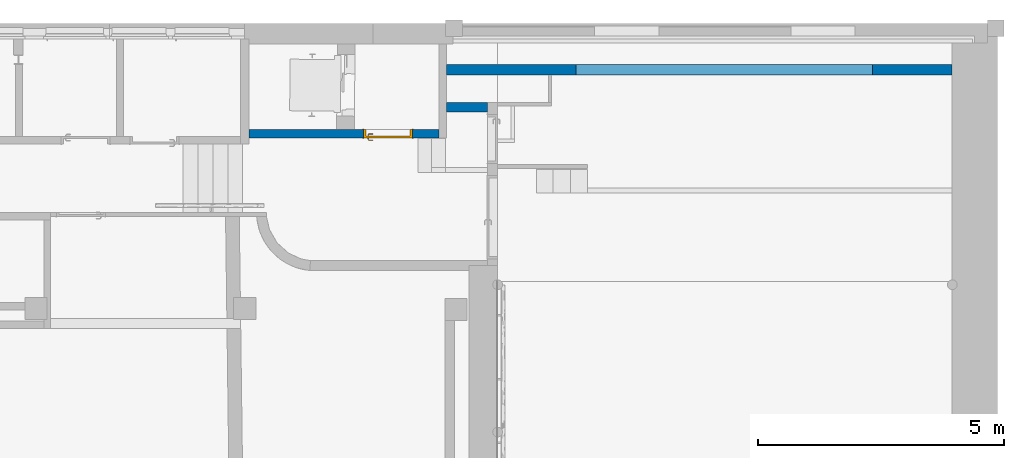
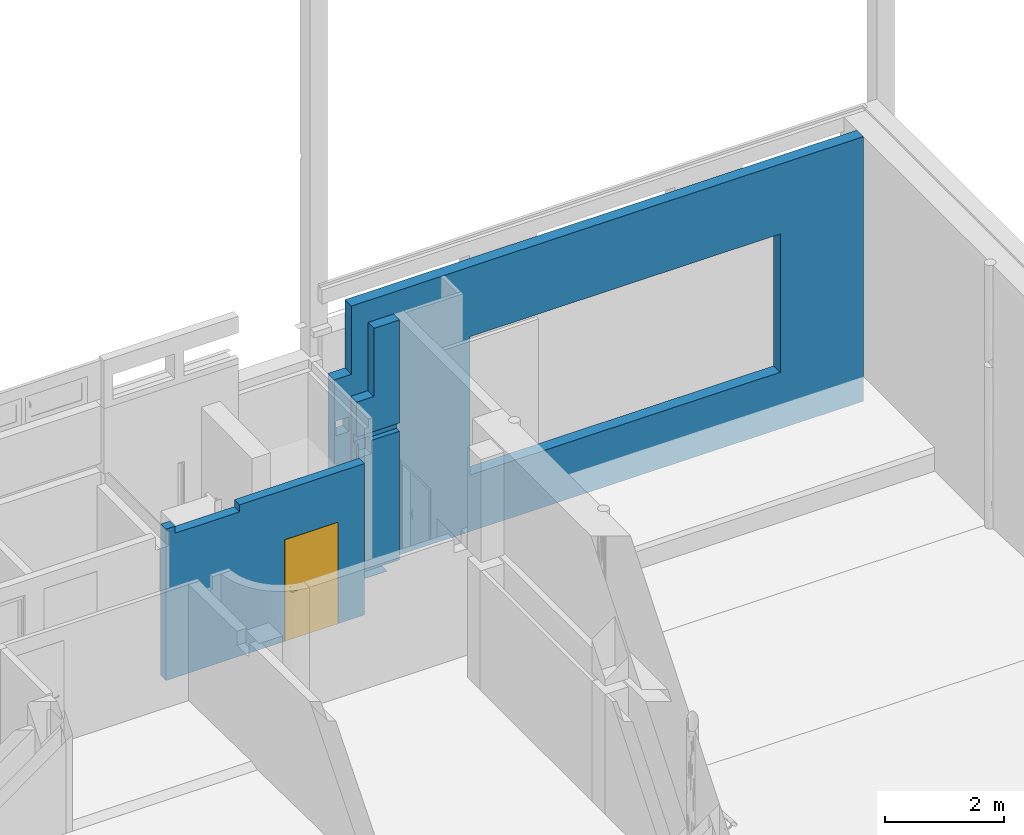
# One storey, part 30 of 39: 3 walls, 1 door, 2 openings.
"""IFC4 building model written with IfcOpenShell, lengths in metres."""

from ifc_helpers import new_model, entity, si_unit, converted_unit, derived_unit, direction, frame, origin, place, context, subcontext, project, spatial, indexed_curve, outline, extrude, polygons, source, transform, mapped, material, material_list, layer, layer_set, constituent, constituent_set, type_object, type_shapes, element, fill, save


model = new_model("IFC4")

# Units and contexts
model_context = context("Model", 3, precision=1e-05, world=origin(), true_north=direction((6.12303176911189e-17, 1.0)))
body_context = subcontext(model_context, "Body", "Model", "MODEL_VIEW")
ifc_project = project(units=[si_unit("LENGTHUNIT", "METRE"), si_unit("AREAUNIT", "SQUARE_METRE"), si_unit("VOLUMEUNIT", "CUBIC_METRE"), converted_unit("PLANEANGLEUNIT", "DEGREE", entity("IfcRatioMeasure", 0.0174532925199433), si_unit("PLANEANGLEUNIT", "RADIAN"), dimensions=[0, 0, 0, 0, 0, 0, 0]), si_unit("MASSUNIT", "GRAM", prefix="KILO"), derived_unit("MASSDENSITYUNIT", [(si_unit("MASSUNIT", "GRAM", prefix="KILO"), 1), (si_unit("LENGTHUNIT", "METRE"), -3)]), derived_unit("MOMENTOFINERTIAUNIT", [(si_unit("LENGTHUNIT", "METRE"), 4)]), si_unit("TIMEUNIT", "SECOND"), si_unit("FREQUENCYUNIT", "HERTZ"), si_unit("THERMODYNAMICTEMPERATUREUNIT", "DEGREE_CELSIUS"), derived_unit("THERMALTRANSMITTANCEUNIT", [(si_unit("MASSUNIT", "GRAM", prefix="KILO"), 1), (si_unit("THERMODYNAMICTEMPERATUREUNIT", "KELVIN"), -1), (si_unit("TIMEUNIT", "SECOND"), -3)]), derived_unit("VOLUMETRICFLOWRATEUNIT", [(si_unit("LENGTHUNIT", "METRE"), 3), (si_unit("TIMEUNIT", "SECOND"), -1)]), si_unit("ELECTRICCURRENTUNIT", "AMPERE"), si_unit("ELECTRICVOLTAGEUNIT", "VOLT"), si_unit("POWERUNIT", "WATT"), si_unit("FORCEUNIT", "NEWTON", prefix="KILO"), si_unit("ILLUMINANCEUNIT", "LUX"), si_unit("LUMINOUSFLUXUNIT", "LUMEN"), si_unit("LUMINOUSINTENSITYUNIT", "CANDELA"), derived_unit("USERDEFINED", [(si_unit("MASSUNIT", "GRAM", prefix="KILO"), -1), (si_unit("LENGTHUNIT", "METRE"), -2), (si_unit("TIMEUNIT", "SECOND"), 3), (si_unit("LUMINOUSFLUXUNIT", "LUMEN"), 1)]), derived_unit("LINEARVELOCITYUNIT", [(si_unit("LENGTHUNIT", "METRE"), 1), (si_unit("TIMEUNIT", "SECOND"), -1)]), si_unit("PRESSUREUNIT", "PASCAL"), derived_unit("USERDEFINED", [(si_unit("LENGTHUNIT", "METRE"), -2), (si_unit("MASSUNIT", "GRAM", prefix="KILO"), 1), (si_unit("TIMEUNIT", "SECOND"), -2)]), derived_unit("LINEARFORCEUNIT", [(si_unit("MASSUNIT", "GRAM", prefix="KILO"), 1), (si_unit("LENGTHUNIT", "METRE"), 1), (si_unit("TIMEUNIT", "SECOND"), -2), (si_unit("LENGTHUNIT", "METRE"), -1)]), derived_unit("PLANARFORCEUNIT", [(si_unit("MASSUNIT", "GRAM", prefix="KILO"), 1), (si_unit("LENGTHUNIT", "METRE"), 1), (si_unit("TIMEUNIT", "SECOND"), -2), (si_unit("LENGTHUNIT", "METRE"), -2)])], contexts=[model_context])

# Site, building, storey
site_placement = place(None, origin())
site = spatial("IfcSite", under=ifc_project, at=site_placement, Name="Default", CompositionType="ELEMENT")
building_placement = place(site_placement, origin())
building = spatial("IfcBuilding", under=site, at=building_placement, Name="HOTEL CONSULAIRE BOULOGNE SUR MER", CompositionType="ELEMENT")
storey_placement = place(building_placement, frame((0.0, 0.0, -5.02343668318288)))
storey = spatial("IfcBuildingStorey", under=building, at=storey_placement, Name="SS3", CompositionType="ELEMENT", Elevation=-5.02343668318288)

# Wall, openings, door
ifc_material_1 = material(Name="Mur par défaut", Category="Divers")
ifc_layer_1 = layer(ifc_material_1, 0.18, Name="Mur par défaut", Category="Divers")
ifc_layer_set_1 = layer_set([ifc_layer_1], Name="Mur de base:Générique - Int.180")
wall_type_1 = type_object("IfcWallType", Name="Mur de base:Générique - Int.180", PredefinedType="NOTDEFINED", material=ifc_layer_set_1)
wall_1_placement = place(storey_placement, frame((7.30898026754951, -12.0607913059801, -0.649999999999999)))
wall_1 = element("IfcWall", 1, at=wall_1_placement, inside=storey, type_object=wall_type_1, material=ifc_layer_set_1, Name="Mur de base:Générique - Int.180", ObjectType="Mur de base:Générique - Int.180", PredefinedType="NOTDEFINED", context=body_context, shape_type="Tessellation", body=[
    polygons([(-4.74839133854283e-16, 0.089999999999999, 3.11399047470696), (1.04195933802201e-16, -0.0900000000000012, 3.11399047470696), (0.178999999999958, -0.0900000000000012, 3.11399047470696), (0.178999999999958, 0.089999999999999, 3.11399047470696), (3.86666342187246, -0.0900000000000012, 0.0), (3.32566342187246, -0.0900000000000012, 0.0), (3.32566342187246, 0.089999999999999, 0.0), (3.86666342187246, 0.089999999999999, 0.0), (3.86666342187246, -0.0900000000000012, 3.11399047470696), (1.43400679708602, -0.0900000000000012, 3.11399047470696), (1.43400679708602, -0.0900000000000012, 2.96999999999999), (0.178999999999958, -0.0900000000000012, 2.96999999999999), (1.04195933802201e-16, -0.0900000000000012, 0.0), (2.32566342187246, -0.0900000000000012, 0.0), (2.32566342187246, -0.0900000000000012, 2.075), (3.32566342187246, -0.0900000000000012, 2.075), (3.32566342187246, 0.089999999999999, 2.075), (2.32566342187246, 0.089999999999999, 2.075), (2.32566342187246, 0.089999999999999, 0.0), (2.13897553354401, 0.089999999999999, 0.0), (1.77895886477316, 0.0899999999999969, 0.0), (-4.74839133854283e-16, 0.089999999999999, 0.0), (0.17899999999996, 0.089999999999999, 2.96999999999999), (1.43400679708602, 0.089999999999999, 2.96999999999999), (1.43400679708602, 0.089999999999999, 3.11399047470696), (3.86666342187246, 0.089999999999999, 3.11399047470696), (3.86666342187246, 0.0, 3.11399047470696)], [[[2, 3, 4, 1]], [[10, 9, 27, 26, 25]], [[23, 12, 11, 24]], [[5, 6, 7, 8]], [[14, 13, 22, 21, 20, 19]], [[17, 16, 15, 18]], [[12, 3, 2, 13, 14, 15, 16, 6, 5, 9, 10, 11]], [[17, 18, 19, 20, 21, 22, 1, 4, 23, 24, 25, 26, 8, 7]], [[17, 7, 6, 16]], [[24, 11, 10, 25]], [[22, 13, 2, 1]], [[19, 18, 15, 14]], [[27, 9, 5, 8, 26]], [[23, 4, 3, 12]]], closed=True),
])
opening_1_placement = place(wall_1_placement, frame((0.178999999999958, -1.43400000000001, 2.96999999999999)))
element("IfcOpeningElement", 2, at=opening_1_placement, cuts=wall_1, Name="Mur de base:Générique - Int.180", ObjectType="Opening", PredefinedType="OPENING", context=body_context, shape_type="SweptSolid", body=[
    extrude(outline(indexed_curve([(-0.62750339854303, -1.0), (0.627503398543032, -1.0), (0.62750339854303, 1.0), (-0.627503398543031, 1.0), (-0.62750339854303, -1.0)], self_intersect=False)), frame((0.627503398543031, 0.0, 1.0), z_axis=(0.0, 1.0, 0.0), x_axis=(-1.0, 0.0, 0.0)), (0.0, 0.0, 1.0), 3.048),
])
opening_2_placement = place(wall_1_placement, frame((3.32566342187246, 0.0899999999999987, 0.0)))
opening_2 = element("IfcOpeningElement", 3, at=opening_2_placement, cuts=wall_1, Name="Int. Simple:PP0.93x2.04:1", ObjectType="Opening", PredefinedType="OPENING", context=body_context, shape_type="SweptSolid", body=[
    extrude(outline(indexed_curve([(0.0, 1.62430069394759e-15), (2.075, 1.62430069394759e-15), (2.075, 1.0), (0.0, 1.0), (0.0, 1.62430069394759e-15)], self_intersect=False)), frame((0.0, 0.0, 0.0), z_axis=(0.0, -1.0, 0.0), x_axis=(0.0, 0.0, 1.0)), (0.0, 0.0, 1.0), 0.18),
])
ifc_material_2 = material(Name="Finition Peinture - Blanc satiné", Category="Peinture")
ifc_constituent_1 = constituent(ifc_material_2, Name="Finition Peinture - Blanc satiné", Category="Matériaux")
ifc_material_3 = material(Name="Bois - Panneau de porte", Category="Bois")
ifc_constituent_2 = constituent(ifc_material_3, Name="Bois - Panneau de porte", Category="Matériaux")
ifc_material_4 = material(Name="Bois - Cadre de porte", Category="Bois")
ifc_constituent_3 = constituent(ifc_material_4, Name="Bois - Cadre de porte", Category="Matériaux")
ifc_constituent_set = constituent_set(constituents=[ifc_constituent_1, ifc_constituent_2, ifc_constituent_3], Name="MaterialConstituentSet")
ifc_material_list = material_list([ifc_material_4, ifc_material_2, ifc_material_3, ifc_material_4])
door_type = type_object("IfcDoorType", Name="Int. Simple:PP0.93x2.04", OperationType="NOTDEFINED", PredefinedType="DOOR", material=ifc_material_list)
shared_shape = source(origin(), body_context, "Body", "Tessellation", [
    polygons([(0.075000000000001, -0.00500000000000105, 0.870000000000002), (0.0846472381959, -0.00500000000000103, 0.866003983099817), (0.0950000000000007, -0.00500000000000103, 0.86464101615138), (0.105352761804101, -0.00500000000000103, 0.866003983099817), (0.115, -0.00500000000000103, 0.870000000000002), (0.114999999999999, -0.00500000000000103, 1.08), (0.1053527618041, -0.00500000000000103, 1.08399601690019), (0.0949999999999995, -0.00500000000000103, 1.08535898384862), (0.0846472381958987, -0.00500000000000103, 1.08399601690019), (0.0749999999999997, -0.00500000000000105, 1.08), (0.0749999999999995, -1.06594733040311e-15, 0.870000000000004), (0.0749999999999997, -1.06594733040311e-15, 1.08), (0.0846472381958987, -1.04902753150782e-15, 1.08399601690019), (0.0949999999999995, -1.04902753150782e-15, 1.08535898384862), (0.1053527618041, -1.04902753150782e-15, 1.08399601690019), (0.114999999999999, -1.04902753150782e-15, 1.08), (0.115, -1.04902753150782e-15, 0.870000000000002), (0.105352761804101, -1.04902753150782e-15, 0.866003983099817), (0.0950000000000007, -1.04902753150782e-15, 0.86464101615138), (0.0846472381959, -1.04902753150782e-15, 0.866003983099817)], [[[4, 5, 6, 7, 8, 9, 10, 1, 2, 3]], [[15, 16, 17, 18, 19, 20, 11, 12, 13, 14]], [[11, 20, 2, 1]], [[2, 20, 19, 3]], [[19, 18, 4, 3]], [[18, 17, 5, 4]], [[6, 5, 17, 16]], [[16, 15, 7, 6]], [[7, 15, 14, 8]], [[14, 13, 9, 8]], [[13, 12, 10, 9]], [[1, 10, 12, 11]]], closed=True),
    polygons([(0.114999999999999, 0.0399999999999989, 1.08), (0.1053527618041, 0.0399999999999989, 1.08399601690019), (0.0949999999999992, 0.0399999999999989, 1.08535898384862), (0.0846472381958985, 0.0399999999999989, 1.08399601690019), (0.0749999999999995, 0.0399999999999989, 1.08), (0.075000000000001, 0.0399999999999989, 0.870000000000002), (0.0846472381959, 0.0399999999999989, 0.866003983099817), (0.0950000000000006, 0.0399999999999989, 0.86464101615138), (0.105352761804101, 0.0399999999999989, 0.866003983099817), (0.115, 0.0399999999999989, 0.870000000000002), (0.114999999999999, 0.044999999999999, 1.08), (0.115, 0.044999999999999, 0.870000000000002), (0.105352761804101, 0.0449999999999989, 0.866003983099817), (0.0950000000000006, 0.0449999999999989, 0.86464101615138), (0.0846472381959, 0.0449999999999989, 0.866003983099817), (0.0749999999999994, 0.0449999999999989, 0.870000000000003), (0.0749999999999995, 0.0449999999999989, 1.08), (0.0846472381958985, 0.0449999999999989, 1.08399601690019), (0.0949999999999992, 0.0449999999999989, 1.08535898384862), (0.1053527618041, 0.0449999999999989, 1.08399601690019)], [[[9, 10, 1, 2, 3, 4, 5, 6, 7, 8]], [[20, 11, 12, 13, 14, 15, 16, 17, 18, 19]], [[11, 20, 2, 1]], [[2, 20, 19, 3]], [[19, 18, 4, 3]], [[18, 17, 5, 4]], [[6, 5, 17, 16]], [[16, 15, 7, 6]], [[7, 15, 14, 8]], [[14, 13, 9, 8]], [[13, 12, 10, 9]], [[1, 10, 12, 11]]], closed=True),
    polygons([(0.0889999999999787, -0.00500000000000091, 1.007), (0.0929747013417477, -0.00500000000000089, 1.00778044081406), (0.097025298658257, -0.00500000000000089, 1.00778044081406), (0.101000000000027, -0.00500000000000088, 1.00699999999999), (0.101000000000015, -0.00500000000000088, 0.993000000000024), (0.0970252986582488, -0.00500000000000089, 0.992219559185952), (0.0929747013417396, -0.00500000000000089, 0.99221955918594), (0.0889999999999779, -0.00500000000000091, 0.992999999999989), (0.0889999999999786, -0.0326509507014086, 1.007), (0.0929747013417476, -0.0310045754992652, 1.00778044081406), (0.0970252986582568, -0.0293267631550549, 1.00778044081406), (0.101000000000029, -0.0276803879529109, 1.007), (0.101000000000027, -0.0276803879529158, 0.993000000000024), (0.0970252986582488, -0.0293267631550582, 0.992219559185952), (0.0929747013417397, -0.0310045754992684, 0.99221955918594), (0.0889999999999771, -0.0326509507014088, 0.992999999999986), (0.107377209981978, -0.051028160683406, 1.007), (0.109023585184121, -0.0470534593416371, 1.00778044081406), (0.110701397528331, -0.0430028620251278, 1.00778044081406), (0.112347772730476, -0.0390281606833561, 1.007), (0.112347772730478, -0.0390281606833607, 0.993000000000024), (0.110701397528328, -0.0430028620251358, 0.992219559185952), (0.109023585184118, -0.0470534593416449, 0.99221955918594), (0.107377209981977, -0.0510281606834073, 0.992999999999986), (0.195018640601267, -0.0510281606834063, 1.00699999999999), (0.195018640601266, -0.051028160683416, 0.992999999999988), (0.195018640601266, -0.0470534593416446, 0.99221955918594), (0.195018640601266, -0.0430028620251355, 0.992219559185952), (0.195018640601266, -0.0390281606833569, 0.993000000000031), (0.195018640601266, -0.0390281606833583, 1.007), (0.195018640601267, -0.0430028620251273, 1.00778044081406), (0.195018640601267, -0.0470534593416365, 1.00778044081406), (0.147307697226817, -0.0510281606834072, 1.007), (0.152860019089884, -0.045028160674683, 1.0078786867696), (0.15368320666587, -0.039028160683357, 1.007), (0.147307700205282, -0.0510281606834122, 0.992999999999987), (0.152860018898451, -0.0450281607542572, 0.992121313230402), (0.153683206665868, -0.0390281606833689, 0.993000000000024)], [[[2, 3, 4, 5, 6, 7, 8, 1]], [[21, 20, 35, 30, 29, 38]], [[9, 10, 2, 1]], [[10, 18, 19, 11, 3, 2]], [[11, 12, 4, 3]], [[5, 4, 12, 13]], [[26, 27, 28, 29, 30, 31, 32, 25]], [[13, 14, 6, 5]], [[14, 22, 23, 15, 7, 6]], [[15, 16, 8, 7]], [[1, 8, 16, 9]], [[17, 18, 10, 9]], [[19, 20, 12, 11]], [[13, 12, 20, 21]], [[21, 22, 14, 13]], [[23, 24, 16, 15]], [[9, 16, 24, 17]], [[33, 32, 34]], [[25, 32, 33]], [[18, 17, 33]], [[34, 35, 19]], [[20, 19, 35]], [[35, 31, 30]], [[32, 31, 34]], [[31, 35, 34]], [[18, 33, 34]], [[18, 34, 19]], [[38, 28, 37]], [[36, 37, 27]], [[21, 38, 22]], [[38, 29, 28]], [[26, 36, 27]], [[24, 23, 36]], [[36, 23, 37]], [[23, 22, 37]], [[22, 38, 37]], [[27, 37, 28]], [[17, 24, 36, 26, 25, 33]]], closed=True),
    polygons([(0.10100000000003, 0.0449999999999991, 0.993000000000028), (0.101000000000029, 0.0449999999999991, 1.007), (0.0970252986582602, 0.0449999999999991, 1.00778044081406), (0.092974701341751, 0.0449999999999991, 1.00778044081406), (0.0889999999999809, 0.0449999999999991, 1.007), (0.0889999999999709, 0.0449999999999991, 0.992999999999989), (0.0929747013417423, 0.0449999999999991, 0.99221955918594), (0.0970252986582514, 0.0449999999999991, 0.992219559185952), (0.10100000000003, 0.067485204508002, 0.993000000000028), (0.10100000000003, 0.0674852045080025, 1.007), (0.0970252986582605, 0.0691315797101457, 1.00778044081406), (0.0929747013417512, 0.070809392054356, 1.00778044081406), (0.088999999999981, 0.0724557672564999, 1.007), (0.0889999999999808, 0.0724557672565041, 0.992999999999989), (0.092974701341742, 0.0708093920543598, 0.99221955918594), (0.0970252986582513, 0.0691315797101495, 0.992219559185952), (0.112485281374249, 0.0789704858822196, 0.993000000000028), (0.112485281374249, 0.0789704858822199, 1.007), (0.110838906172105, 0.0829451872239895, 1.00778044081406), (0.109161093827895, 0.0869957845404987, 1.00778044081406), (0.107514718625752, 0.090970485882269, 1.007), (0.107514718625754, 0.090970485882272, 0.992999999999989), (0.109161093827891, 0.0869957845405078, 0.99221955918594), (0.110838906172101, 0.0829451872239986, 0.992219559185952), (0.195045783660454, 0.0789704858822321, 0.993000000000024), (0.195045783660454, 0.0829451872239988, 0.992219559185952), (0.195045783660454, 0.086995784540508, 0.99221955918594), (0.195045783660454, 0.0909704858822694, 0.992999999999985), (0.195045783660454, 0.0909704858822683, 1.007), (0.195045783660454, 0.0869957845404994, 1.00778044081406), (0.195045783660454, 0.0829451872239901, 1.00778044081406), (0.195045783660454, 0.0789704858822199, 1.007), (0.147445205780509, 0.0909704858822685, 1.007), (0.152942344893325, 0.0849704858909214, 1.0078786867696), (0.153765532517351, 0.0789704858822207, 1.007), (0.147445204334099, 0.0909704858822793, 0.992999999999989), (0.152942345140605, 0.0849704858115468, 0.992121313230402), (0.153765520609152, 0.0789704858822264, 0.993000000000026)], [[[4, 5, 6, 7, 8, 1, 2, 3]], [[18, 17, 38, 25, 32, 35]], [[2, 1, 9, 10]], [[25, 26, 27, 28, 29, 30, 31, 32]], [[10, 11, 3, 2]], [[11, 19, 20, 12, 4, 3]], [[12, 13, 5, 4]], [[6, 5, 13, 14]], [[14, 15, 7, 6]], [[15, 23, 24, 16, 8, 7]], [[16, 9, 1, 8]], [[10, 9, 17, 18]], [[18, 19, 11, 10]], [[20, 21, 13, 12]], [[14, 13, 21, 22]], [[22, 23, 15, 14]], [[24, 17, 9, 16]], [[35, 31, 34]], [[33, 34, 30]], [[18, 35, 19]], [[35, 32, 31]], [[29, 33, 30]], [[21, 20, 33]], [[33, 20, 34]], [[20, 19, 34]], [[19, 35, 34]], [[30, 34, 31]], [[21, 33, 29, 28, 36, 22]], [[36, 27, 37]], [[28, 27, 36]], [[23, 22, 36]], [[37, 38, 24]], [[17, 24, 38]], [[38, 26, 25]], [[27, 26, 37]], [[26, 38, 37]], [[23, 36, 37]], [[23, 37, 24]]], closed=True),
    polygons([(0.0349999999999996, 0.04, 2.04), (0.965, 0.04, 2.04), (0.965, 0.04, 0.0), (0.0349999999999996, 0.04, 0.0), (0.0349999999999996, 5.07593966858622e-17, 2.04), (0.0349999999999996, 5.07593966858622e-17, 0.0), (0.965, 5.07593966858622e-17, 0.0), (0.965, 5.07593966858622e-17, 2.04)], [[[4, 1, 2, 3]], [[7, 8, 5, 6]], [[2, 1, 5, 8]], [[3, 2, 8, 7]], [[4, 3, 7, 6]], [[1, 4, 6, 5]]], closed=True),
    polygons([(-1.53631773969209e-14, 1.69197988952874e-17, 0.0), (-1.53631773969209e-14, 0.180000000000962, 0.0), (0.0499999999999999, 0.180000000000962, 0.0), (0.0499999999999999, 0.0400000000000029, 0.0), (0.0349999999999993, 0.0400000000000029, 0.0), (0.0349999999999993, 1.69197988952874e-17, 0.0), (-1.51601398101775e-14, 1.69197988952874e-17, 2.07500000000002), (-1.51601398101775e-14, 0.180000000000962, 2.07500000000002), (1.00000000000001, 0.180000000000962, 2.07500000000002), (1.00000000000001, 0.180000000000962, 3.88816484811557e-25), (0.95, 0.180000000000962, 3.59657255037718e-24), (0.95, 0.180000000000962, 2.025), (0.05, 0.180000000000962, 2.025), (0.05, 0.0400000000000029, 2.025), (0.95, 0.0400000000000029, 2.025), (0.95, 0.0400000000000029, 2.24110802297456e-24), (0.965, 0.0400000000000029, -4.78103047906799e-25), (0.965, 0.0400000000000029, 2.04), (0.0349999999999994, 0.0400000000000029, 2.04), (0.0349999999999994, 1.69197988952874e-17, 2.04), (0.965, 1.69197988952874e-17, 2.04), (0.965, 1.69197988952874e-17, -2.84752548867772e-24), (1.00000000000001, 1.69197988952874e-17, -3.95490158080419e-25), (1.00000000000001, 1.69197988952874e-17, 2.07500000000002)], [[[5, 6, 1, 2, 3, 4]], [[11, 10, 23, 22, 17, 16]], [[14, 13, 12, 15]], [[20, 19, 18, 21]], [[2, 1, 7, 8]], [[15, 12, 11, 16]], [[21, 18, 17, 22]], [[3, 2, 8, 9, 10, 11, 12, 13]], [[4, 3, 13, 14]], [[6, 5, 19, 20]], [[9, 24, 23, 10]], [[16, 17, 18, 19, 5, 4, 14, 15]], [[22, 23, 24, 7, 1, 6, 20, 21]], [[8, 7, 24, 9]]], closed=True),
    polygons([(0.0149999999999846, 0.180000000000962, 0.0), (-0.0150000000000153, 0.180000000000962, 0.0), (-0.0150000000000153, 0.185000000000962, 0.0), (0.0149999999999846, 0.185000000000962, 0.0), (0.0149999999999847, 0.180000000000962, 2.06000000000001), (0.98499999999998, 0.180000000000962, 2.06000000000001), (0.98499999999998, 0.180000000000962, -1.80158911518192e-24), (1.01499999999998, 0.180000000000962, -9.00794238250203e-25), (1.01499999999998, 0.180000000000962, 2.09000000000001), (-0.0150000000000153, 0.180000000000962, 2.09000000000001), (-0.0150000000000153, 0.185000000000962, 2.09000000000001), (1.01499999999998, 0.185000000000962, 2.09000000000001), (1.01499999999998, 0.185000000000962, -5.48159974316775e-24), (0.98499999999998, 0.185000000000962, -4.34281663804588e-24), (0.98499999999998, 0.185000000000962, 2.06000000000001), (0.0149999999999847, 0.185000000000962, 2.06000000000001)], [[[2, 3, 4, 1]], [[14, 13, 8, 7]], [[5, 16, 15, 6]], [[7, 8, 9, 10, 2, 1, 5, 6]], [[3, 2, 10, 11]], [[6, 15, 14, 7]], [[4, 3, 11, 12, 13, 14, 15, 16]], [[1, 4, 16, 5]], [[12, 9, 8, 13]], [[11, 10, 9, 12]]], closed=True),
    polygons([(0.0149999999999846, -0.005, 0.0), (-0.0150000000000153, -0.005, 0.0), (-0.0150000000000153, 1.69197988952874e-17, 0.0), (0.0149999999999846, 1.69197988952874e-17, 0.0), (0.98499999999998, -0.005, 5.41433564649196e-16), (0.98499999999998, 1.69197988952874e-17, 5.41433564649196e-16), (1.01499999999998, 1.69197988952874e-17, 5.41433564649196e-16), (1.01499999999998, -0.005, 5.41433564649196e-16), (0.0149999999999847, -0.005, 2.06000000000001), (0.98499999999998, -0.005, 2.06000000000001), (1.01499999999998, -0.005, 2.09000000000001), (-0.0150000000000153, -0.005, 2.09000000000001), (-0.0150000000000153, 1.69197988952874e-17, 2.09000000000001), (1.01499999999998, 1.69197988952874e-17, 2.09000000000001), (0.98499999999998, 1.69197988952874e-17, 2.06000000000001), (0.0149999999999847, 1.69197988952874e-17, 2.06000000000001)], [[[1, 2, 3, 4]], [[6, 7, 8, 5]], [[9, 16, 15, 10]], [[5, 8, 11, 12, 2, 1, 9, 10]], [[3, 2, 12, 13]], [[10, 15, 6, 5]], [[4, 3, 13, 14, 7, 6, 15, 16]], [[1, 4, 16, 9]], [[14, 11, 8, 7]], [[13, 12, 11, 14]]], closed=True),
])
type_shapes(door_type, [shared_shape])
door_placement = place(opening_2_placement, frame((-1.0, -0.180000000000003, 0.0)))
door = element("IfcDoor", 4, at=door_placement, inside=storey, type_object=door_type, material=ifc_constituent_set, Name="Int. Simple:PP0.93x2.04", ObjectType="Int. Simple:PP0.93x2.04", OperationType="NOTDEFINED", OverallHeight=2.075, OverallWidth=1.0, PredefinedType="DOOR", context=body_context, shape_type="MappedRepresentation", body=[
    mapped(shared_shape, transform((0.0, 0.0, 0.0), scale=1.0)),
])
fill(opening_2, door)

# Walls
ifc_layer_2 = layer(ifc_material_1, 0.2, Name="Mur par défaut", Category="Divers")
ifc_layer_set_2 = layer_set([ifc_layer_2], Name="Mur de base:Générique - Int.200")
wall_type_2 = type_object("IfcWallType", Name="Mur de base:Générique - Int.200", PredefinedType="NOTDEFINED", material=ifc_layer_set_2)
wall_2_placement = place(storey_placement, frame((12.1592268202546, -11.5226796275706, -0.183844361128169), z_axis=(0.0, 0.0, 1.0), x_axis=(-1.0, 0.0, 0.0)))
element("IfcWall", 5, at=wall_2_placement, inside=storey, type_object=wall_type_2, material=ifc_layer_set_2, Name="Mur de base:Générique - Int.200", ObjectType="Mur de base:Générique - Int.200", PredefinedType="NOTDEFINED", context=body_context, shape_type="Tessellation", body=[
    polygons([(-1.02349098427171e-15, 0.0999999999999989, 4.93728104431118), (0.498029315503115, 0.0999999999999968, 4.93728104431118), (0.498029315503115, 0.0999999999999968, 3.53568126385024), (0.833583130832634, 0.0999999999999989, 3.53568126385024), (0.833583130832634, 0.0999999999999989, 2.81783483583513), (-1.02349098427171e-15, 0.0999999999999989, 2.81783483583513), (0.798788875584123, -2.16573425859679e-15, 2.64783483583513), (0.833583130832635, 0.0, 2.64783483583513), (0.833583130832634, 0.0999999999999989, 2.64783483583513), (0.798788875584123, 0.0999999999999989, 2.64783483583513), (-2.9779874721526e-16, -0.100000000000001, 0.0), (0.833583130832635, -0.100000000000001, 0.0), (0.833583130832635, -0.100000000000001, 3.53568126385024), (0.498029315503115, -0.100000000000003, 3.53568126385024), (0.498029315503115, -0.100000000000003, 4.93728104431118), (-2.9779874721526e-16, -0.100000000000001, 4.93728104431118), (0.548788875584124, -0.100000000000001, 2.37384436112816), (0.548788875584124, -0.100000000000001, 2.67384436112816), (0.798788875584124, -0.100000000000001, 2.67384436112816), (0.798788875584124, -0.100000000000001, 2.37384436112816), (0.833583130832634, 0.0999999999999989, 0.0), (-1.02349098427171e-15, 0.0999999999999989, 0.0), (-1.02349098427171e-15, 0.0999999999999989, 2.64783483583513), (0.548788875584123, 0.0999999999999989, 2.64783483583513), (0.548788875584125, 0.0999999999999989, 2.37384436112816), (0.798788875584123, 0.0999999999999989, 2.37384436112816), (0.833583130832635, -2.16573425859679e-15, 2.81783483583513), (-6.60644865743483e-16, 0.0, 2.81783483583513), (-6.60644865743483e-16, 0.0, 2.64783483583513), (0.548788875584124, 0.0, 2.64783483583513), (0.548788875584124, 0.0, 2.67384436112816), (0.798788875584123, -2.16573425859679e-15, 2.67384436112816)], [[[3, 4, 5, 6, 1, 2]], [[21, 22, 23, 24, 25, 26, 10, 9]], [[31, 30, 29, 28, 27, 8, 7, 32]], [[10, 7, 8, 9]], [[16, 15, 2, 1]], [[4, 3, 14, 13]], [[25, 17, 20, 26]], [[24, 23, 29, 30]], [[11, 12, 13, 14, 15, 16], [17, 18, 19, 20]], [[12, 11, 22, 21]], [[32, 19, 18, 31]], [[28, 6, 5, 27]], [[8, 27, 5, 4, 13, 12, 21, 9]], [[15, 14, 3, 2]], [[30, 31, 18, 17, 25, 24]], [[16, 1, 6, 28, 29, 23, 22, 11]], [[26, 20, 19, 32, 7, 10]]], closed=True),
])
ifc_layer_3 = layer(ifc_material_1, 0.22, Name="Mur par défaut", Category="Divers")
ifc_layer_set_3 = layer_set([ifc_layer_3], Name="Mur de base:Générique - Int.220")
wall_type_3 = type_object("IfcWallType", Name="Mur de base:Générique - Int.220", PredefinedType="NOTDEFINED", material=ifc_layer_set_3)
wall_3_placement = place(storey_placement, frame((21.6200604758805, -10.7583131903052, -0.940919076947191), z_axis=(0.0, 0.0, 1.0), x_axis=(-1.0, 0.0, 0.0)))
element("IfcWall", 6, at=wall_3_placement, inside=storey, type_object=wall_type_3, material=ifc_layer_set_3, Name="Mur de base:Générique - Int.220", ObjectType="Mur de base:Générique - Int.220", PredefinedType="NOTDEFINED", context=body_context, shape_type="Tessellation", body=[
    polygons([(9.26083365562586, -0.109999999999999, 0.0), (10.2944167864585, -0.109999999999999, 0.0), (10.2944167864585, -0.109999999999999, 0.000919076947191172), (9.26083365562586, -0.109999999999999, 0.000919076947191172), (10.2944167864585, 0.110000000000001, 0.0), (9.26083365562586, 0.110000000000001, 0.0), (9.26083365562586, 0.110000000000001, 0.000919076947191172), (10.2944167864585, 0.110000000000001, 0.000919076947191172)], [[[4, 1, 2, 3]], [[8, 5, 6, 7]], [[2, 1, 6, 5]], [[2, 5, 8, 3]], [[7, 6, 1, 4]], [[4, 3, 8, 7]]], closed=True),
    polygons([(9.95886297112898, -0.109999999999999, 5.6943557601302), (4.36880593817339e-16, -0.109999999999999, 5.6943557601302), (4.36880593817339e-16, -0.109999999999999, 0.250000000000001), (9.26083365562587, -0.109999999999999, 0.250000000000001), (9.26083365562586, -0.109999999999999, 0.290919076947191), (10.2944167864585, -0.109999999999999, 0.290919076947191), (10.2944167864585, -0.109999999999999, 4.29275597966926), (9.95886297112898, -0.109999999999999, 4.29275597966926), (1.61784185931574, -0.109999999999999, 4.25728155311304), (7.65903624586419, -0.109999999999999, 4.25728155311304), (7.65903624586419, -0.109999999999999, 1.41320403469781), (1.61784185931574, -0.109999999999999, 1.41320403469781), (10.00962253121, -0.109999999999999, 3.13091907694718), (10.00962253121, -0.109999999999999, 3.43091907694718), (10.25962253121, -0.109999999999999, 3.43091907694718), (10.25962253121, -0.109999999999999, 3.13091907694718), (-2.70017365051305e-16, 0.110000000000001, 5.6943557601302), (8.15230449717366, 0.110000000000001, 5.6943557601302), (8.22230449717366, 0.110000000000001, 5.6943557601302), (9.95886297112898, 0.110000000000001, 5.6943557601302), (9.95886297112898, 0.110000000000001, 4.29275597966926), (10.2944167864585, 0.110000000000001, 4.29275597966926), (10.2944167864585, 0.110000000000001, 0.290919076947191), (9.26083365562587, 0.110000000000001, 0.290919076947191), (9.26083365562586, 0.110000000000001, 0.250000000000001), (-2.70017365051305e-16, 0.110000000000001, 0.250000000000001), (7.65903624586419, 0.110000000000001, 4.25728155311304), (1.61784185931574, 0.110000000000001, 4.25728155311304), (1.61784185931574, 0.110000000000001, 1.41320403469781), (7.65903624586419, 0.110000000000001, 1.41320403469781), (10.00962253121, 0.110000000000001, 3.43091907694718), (10.00962253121, 0.110000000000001, 3.13091907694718), (10.25962253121, 0.110000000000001, 3.13091907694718), (10.25962253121, 0.110000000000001, 3.43091907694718)], [[[3, 4, 5, 6, 7, 8, 1, 2], [9, 10, 11, 12], [13, 14, 15, 16]], [[23, 24, 25, 26, 17, 18, 19, 20, 21, 22], [33, 34, 31, 32], [30, 27, 28, 29]], [[6, 23, 22, 7]], [[1, 8, 21, 20]], [[29, 28, 9, 12]], [[5, 4, 25, 24]], [[31, 14, 13, 32]], [[2, 1, 20, 19, 18, 17]], [[7, 22, 21, 8]], [[30, 29, 12, 11]], [[32, 13, 16, 33]], [[9, 28, 27, 10]], [[26, 25, 4, 3]], [[24, 23, 6, 5]], [[34, 15, 14, 31]], [[11, 10, 27, 30]], [[26, 3, 2, 17]], [[33, 16, 15, 34]]], closed=True),
])

save(model, "model.ifc")
